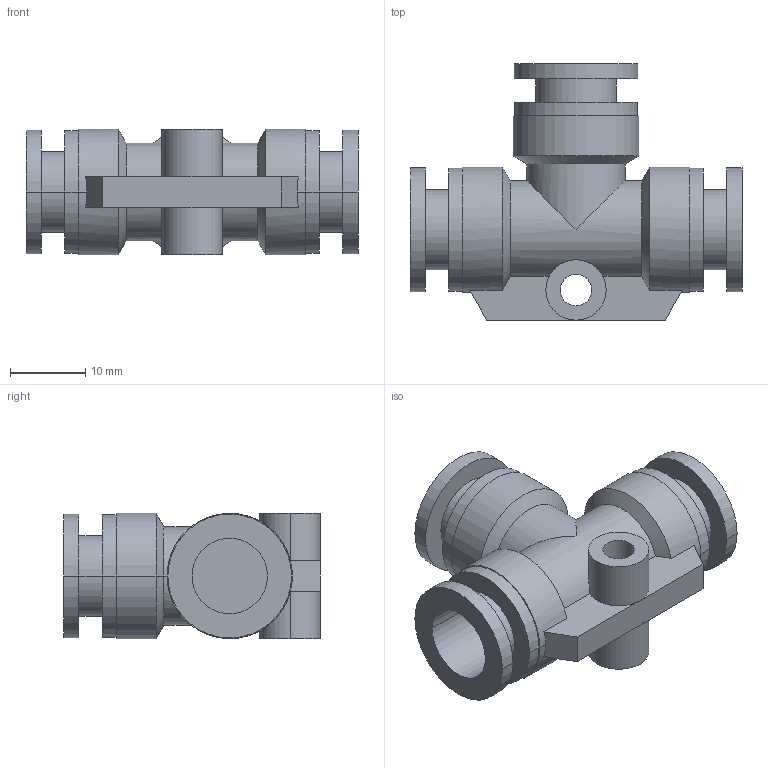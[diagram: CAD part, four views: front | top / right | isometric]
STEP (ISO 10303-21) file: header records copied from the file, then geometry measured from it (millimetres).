
FILE_DESCRIPTION( ( '' ), '1' );
FILE_NAME( 'G:/SMC狟婥/KQ2T10-00A.stp', '2023-03-07T03:24:31', ( '' ), ( '' ), ' ', ' ', ' ' );
FILE_SCHEMA( ( 'CONFIG_CONTROL_DESIGN' ) );
Length unit declared in the file: millimetre
Products named in the file (1): 1
Bounding box: 44 x 34 x 16.6 mm (x, y, z)
Volume: 6845.3 mm3; surface area: 6462.1 mm2
Topology: 1 solids, 1 shells, 70 faces, 158 edges, 102 vertices
Faces by surface type: cylinder 40, plane 24, cone 6
Entity records: 2098 total; most frequent: CARTESIAN_POINT 405, DIRECTION 384, ORIENTED_EDGE 316, AXIS2_PLACEMENT_3D 161, EDGE_CURVE 158, VERTEX_POINT 102, EDGE_LOOP 84, CIRCLE 82
